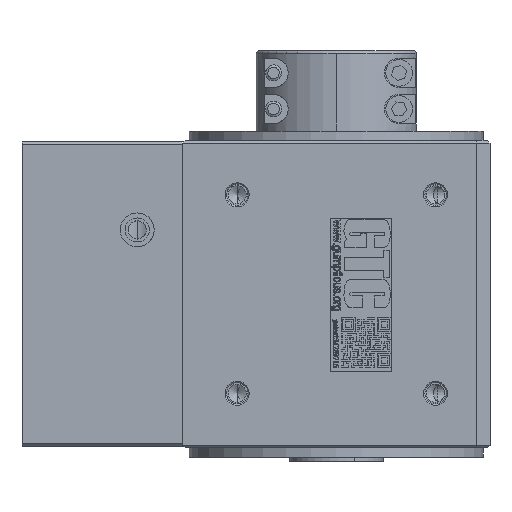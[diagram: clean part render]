
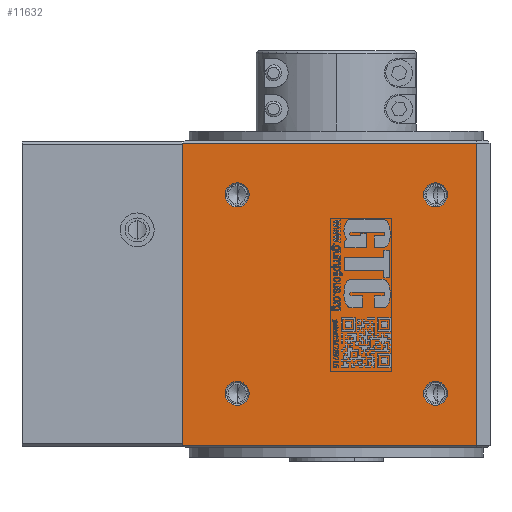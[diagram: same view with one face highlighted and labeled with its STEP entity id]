
A CAD part, front view. The second image highlights one B-rep face of the part: STEP entity #11632.
In plain terms, the highlighted planar face has unit normal (0, -1, 0).
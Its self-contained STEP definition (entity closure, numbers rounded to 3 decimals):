
#9979 = EDGE_CURVE ( 'NONE', #30670, #30669, #20116, .T. ) ;
#9980 = EDGE_CURVE ( 'NONE', #30684, #30683, #20117, .T. ) ;
#9981 = EDGE_CURVE ( 'NONE', #30696, #30695, #20118, .T. ) ;
#9982 = EDGE_CURVE ( 'NONE', #30709, #30708, #20119, .T. ) ;
#9983 = EDGE_CURVE ( 'NONE', #30798, #30800, #59703, .T. ) ;
#9984 = EDGE_CURVE ( 'NONE', #30798, #30799, #59706, .T. ) ;
#9985 = EDGE_CURVE ( 'NONE', #30800, #30801, #59709, .T. ) ;
#9986 = EDGE_CURVE ( 'NONE', #30801, #30799, #59712, .T. ) ;
#11632 = ADVANCED_FACE ( 'NONE', ( #79826, #79824, #79829, #79831, #79833 ), #82091, .F. ) ;
#13560 = EDGE_LOOP ( 'NONE', ( #66145, #66165 ) ) ;
#13561 = EDGE_LOOP ( 'NONE', ( #66153, #66177 ) ) ;
#13562 = EDGE_LOOP ( 'NONE', ( #66161, #66191 ) ) ;
#13563 = EDGE_LOOP ( 'NONE', ( #66173, #66201 ) ) ;
#13564 = EDGE_LOOP ( 'NONE', ( #66185, #66207, #66205, #66209 ) ) ;
#15020 = EDGE_CURVE ( 'NONE', #30669, #30670, #62908, .T. ) ;
#15038 = EDGE_CURVE ( 'NONE', #30683, #30684, #62915, .T. ) ;
#15053 = EDGE_CURVE ( 'NONE', #30695, #30696, #62920, .T. ) ;
#15068 = EDGE_CURVE ( 'NONE', #30708, #30709, #62925, .T. ) ;
#20116 = CIRCLE ( 'NONE', #60323, 4.5 ) ;
#20117 = CIRCLE ( 'NONE', #60326, 4.5 ) ;
#20118 = CIRCLE ( 'NONE', #60328, 4.5 ) ;
#20119 = CIRCLE ( 'NONE', #60327, 4.5 ) ;
#30669 = VERTEX_POINT ( 'NONE', #68781 ) ;
#30670 = VERTEX_POINT ( 'NONE', #68782 ) ;
#30683 = VERTEX_POINT ( 'NONE', #68795 ) ;
#30684 = VERTEX_POINT ( 'NONE', #68796 ) ;
#30695 = VERTEX_POINT ( 'NONE', #68807 ) ;
#30696 = VERTEX_POINT ( 'NONE', #68808 ) ;
#30708 = VERTEX_POINT ( 'NONE', #68820 ) ;
#30709 = VERTEX_POINT ( 'NONE', #68821 ) ;
#30798 = VERTEX_POINT ( 'NONE', #68910 ) ;
#30799 = VERTEX_POINT ( 'NONE', #68911 ) ;
#30800 = VERTEX_POINT ( 'NONE', #68912 ) ;
#30801 = VERTEX_POINT ( 'NONE', #68913 ) ;
#40215 = AXIS2_PLACEMENT_3D ( 'NONE', #43842, #43843, #43844 ) ;
#40226 = AXIS2_PLACEMENT_3D ( 'NONE', #43915, #43916, #43917 ) ;
#40297 = AXIS2_PLACEMENT_3D ( 'NONE', #43965, #43966, #43967 ) ;
#40337 = AXIS2_PLACEMENT_3D ( 'NONE', #44019, #44020, #44021 ) ;
#43842 = CARTESIAN_POINT ( 'NONE',  ( 37.123, -57.5, 23.877 ) ) ;
#43843 = DIRECTION ( 'NONE',  ( 0., -1., 0. ) ) ;
#43844 = DIRECTION ( 'NONE',  ( 0., 0., 1. ) ) ;
#43915 = CARTESIAN_POINT ( 'NONE',  ( -37.123, -57.5, 23.877 ) ) ;
#43916 = DIRECTION ( 'NONE',  ( 0., -1., 0. ) ) ;
#43917 = DIRECTION ( 'NONE',  ( 0., 0., 1. ) ) ;
#43965 = CARTESIAN_POINT ( 'NONE',  ( -37.123, -57.5, 98.123 ) ) ;
#43966 = DIRECTION ( 'NONE',  ( 0., -1., 0. ) ) ;
#43967 = DIRECTION ( 'NONE',  ( 0., 0., 1. ) ) ;
#44019 = CARTESIAN_POINT ( 'NONE',  ( 37.123, -57.5, 98.123 ) ) ;
#44020 = DIRECTION ( 'NONE',  ( 0., -1., 0. ) ) ;
#44021 = DIRECTION ( 'NONE',  ( 0., 0., 1. ) ) ;
#59678 = CARTESIAN_POINT ( 'NONE',  ( 37.123, -57.5, 23.877 ) ) ;
#59691 = DIRECTION ( 'NONE',  ( 0., -1., 0. ) ) ;
#59692 = DIRECTION ( 'NONE',  ( 0., 0., 1. ) ) ;
#59693 = CARTESIAN_POINT ( 'NONE',  ( -37.123, -57.5, 23.877 ) ) ;
#59694 = DIRECTION ( 'NONE',  ( 0., -1., 0. ) ) ;
#59695 = DIRECTION ( 'NONE',  ( 0., 0., 1. ) ) ;
#59696 = CARTESIAN_POINT ( 'NONE',  ( -37.123, -57.5, 98.123 ) ) ;
#59697 = DIRECTION ( 'NONE',  ( 0., -1., 0. ) ) ;
#59698 = DIRECTION ( 'NONE',  ( 0., 0., 1. ) ) ;
#59699 = CARTESIAN_POINT ( 'NONE',  ( 37.123, -57.5, 98.123 ) ) ;
#59700 = DIRECTION ( 'NONE',  ( 0., -1., 0. ) ) ;
#59701 = DIRECTION ( 'NONE',  ( 0., 0., 1. ) ) ;
#59703 = LINE ( 'NONE', #59704, #60330 ) ;
#59704 = CARTESIAN_POINT ( 'NONE',  ( 52.5, -57.5, 4.5 ) ) ;
#59705 = DIRECTION ( 'NONE',  ( 1., 0., 0. ) ) ;
#59706 = LINE ( 'NONE', #59707, #60331 ) ;
#59707 = CARTESIAN_POINT ( 'NONE',  ( -57.501, -57.5, 118.5 ) ) ;
#59708 = DIRECTION ( 'NONE',  ( 0., 0., 1. ) ) ;
#59709 = LINE ( 'NONE', #59710, #60332 ) ;
#59710 = CARTESIAN_POINT ( 'NONE',  ( 52.5, -57.5, 122. ) ) ;
#59711 = DIRECTION ( 'NONE',  ( 0., 0., 1. ) ) ;
#59712 = LINE ( 'NONE', #59713, #60334 ) ;
#59713 = CARTESIAN_POINT ( 'NONE',  ( -57.501, -57.5, 117.5 ) ) ;
#59714 = DIRECTION ( 'NONE',  ( -1., 0., 0. ) ) ;
#60323 = AXIS2_PLACEMENT_3D ( 'NONE', #59678, #59691, #59692 ) ;
#60326 = AXIS2_PLACEMENT_3D ( 'NONE', #59693, #59694, #59695 ) ;
#60327 = AXIS2_PLACEMENT_3D ( 'NONE', #59699, #59700, #59701 ) ;
#60328 = AXIS2_PLACEMENT_3D ( 'NONE', #59696, #59697, #59698 ) ;
#60330 = VECTOR ( 'NONE', #59705, 1000. ) ;
#60331 = VECTOR ( 'NONE', #59708, 1000. ) ;
#60332 = VECTOR ( 'NONE', #59711, 1000. ) ;
#60334 = VECTOR ( 'NONE', #59714, 1000. ) ;
#62908 = CIRCLE ( 'NONE', #40215, 4.5 ) ;
#62915 = CIRCLE ( 'NONE', #40226, 4.5 ) ;
#62920 = CIRCLE ( 'NONE', #40297, 4.5 ) ;
#62925 = CIRCLE ( 'NONE', #40337, 4.5 ) ;
#66145 = ORIENTED_EDGE ( 'NONE', *, *, #9979, .F. ) ;
#66153 = ORIENTED_EDGE ( 'NONE', *, *, #9980, .F. ) ;
#66161 = ORIENTED_EDGE ( 'NONE', *, *, #9981, .F. ) ;
#66165 = ORIENTED_EDGE ( 'NONE', *, *, #15020, .F. ) ;
#66173 = ORIENTED_EDGE ( 'NONE', *, *, #9982, .F. ) ;
#66177 = ORIENTED_EDGE ( 'NONE', *, *, #15038, .F. ) ;
#66185 = ORIENTED_EDGE ( 'NONE', *, *, #9984, .F. ) ;
#66191 = ORIENTED_EDGE ( 'NONE', *, *, #15053, .F. ) ;
#66201 = ORIENTED_EDGE ( 'NONE', *, *, #15068, .F. ) ;
#66205 = ORIENTED_EDGE ( 'NONE', *, *, #9985, .T. ) ;
#66207 = ORIENTED_EDGE ( 'NONE', *, *, #9983, .T. ) ;
#66209 = ORIENTED_EDGE ( 'NONE', *, *, #9986, .T. ) ;
#68781 = CARTESIAN_POINT ( 'NONE',  ( 37.123, -57.5, 19.377 ) ) ;
#68782 = CARTESIAN_POINT ( 'NONE',  ( 37.123, -57.5, 28.377 ) ) ;
#68795 = CARTESIAN_POINT ( 'NONE',  ( -37.123, -57.5, 19.377 ) ) ;
#68796 = CARTESIAN_POINT ( 'NONE',  ( -37.123, -57.5, 28.377 ) ) ;
#68807 = CARTESIAN_POINT ( 'NONE',  ( -37.123, -57.5, 93.623 ) ) ;
#68808 = CARTESIAN_POINT ( 'NONE',  ( -37.123, -57.5, 102.623 ) ) ;
#68820 = CARTESIAN_POINT ( 'NONE',  ( 37.123, -57.5, 93.623 ) ) ;
#68821 = CARTESIAN_POINT ( 'NONE',  ( 37.123, -57.5, 102.623 ) ) ;
#68910 = CARTESIAN_POINT ( 'NONE',  ( -57.501, -57.5, 4.5 ) ) ;
#68911 = CARTESIAN_POINT ( 'NONE',  ( -57.501, -57.5, 117.5 ) ) ;
#68912 = CARTESIAN_POINT ( 'NONE',  ( 52.5, -57.5, 4.5 ) ) ;
#68913 = CARTESIAN_POINT ( 'NONE',  ( 52.5, -57.5, 117.5 ) ) ;
#79822 = AXIS2_PLACEMENT_3D ( 'NONE', #82092, #82093, #82094 ) ;
#79824 = FACE_BOUND ( 'NONE', #13561, .T. ) ;
#79826 = FACE_BOUND ( 'NONE', #13560, .T. ) ;
#79829 = FACE_BOUND ( 'NONE', #13562, .T. ) ;
#79831 = FACE_BOUND ( 'NONE', #13563, .T. ) ;
#79833 = FACE_OUTER_BOUND ( 'NONE', #13564, .T. ) ;
#82091 = PLANE ( 'NONE',  #79822 ) ;
#82092 = CARTESIAN_POINT ( 'NONE',  ( 57.5, -57.5, 122. ) ) ;
#82093 = DIRECTION ( 'NONE',  ( 0., 1., 0. ) ) ;
#82094 = DIRECTION ( 'NONE',  ( 0., 0., -1. ) ) ;
